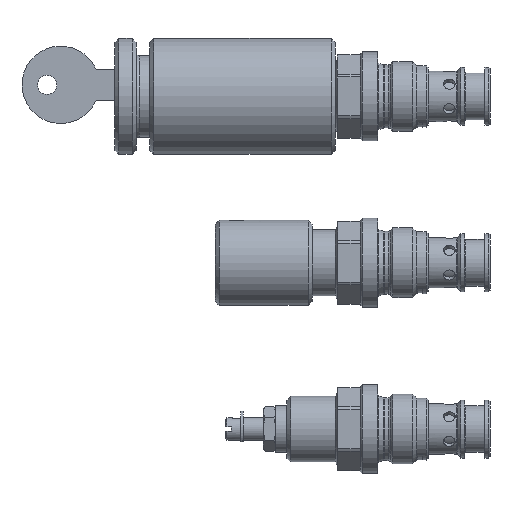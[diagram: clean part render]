
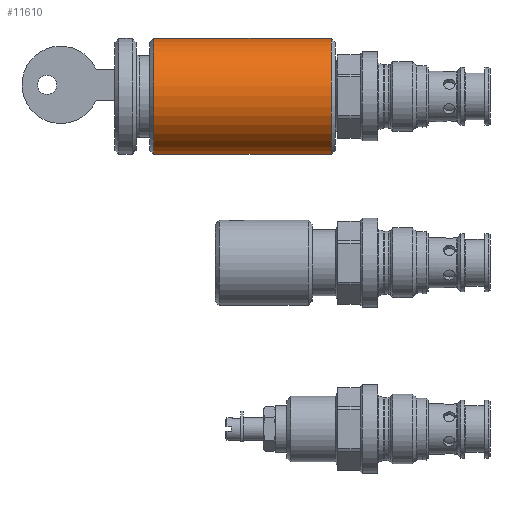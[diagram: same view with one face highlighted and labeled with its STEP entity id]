
A CAD part, front view. The second image highlights one B-rep face of the part: STEP entity #11610.
In plain terms, the highlighted cylindrical face has radius 15 mm (diameter 30 mm), a full revolution.
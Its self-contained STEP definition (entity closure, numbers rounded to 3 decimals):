
#11610=ADVANCED_FACE('', (#11620,#11630), #11640, .T.);
#35650=AXIS2_PLACEMENT_3D('Ax2Pl3d', #35660, #35670, #35680);
#35690=AXIS2_PLACEMENT_3D('Ax2Pl3d', #35700, #35710, #35720);
#35730=AXIS2_PLACEMENT_3D('Ax2Pl3d', #35740, #35750, #35760);
#35660=CARTESIAN_POINT('HicPkt', (-12.,78.001,86.));
#132920=CARTESIAN_POINT('', (-12.,78.001,101.));
#35700=CARTESIAN_POINT('HicPkt', (-58.,78.001,
86.));
#35740=CARTESIAN_POINT('HicPkt', (-58.,78.001,86.));
#132930=CARTESIAN_POINT('', (-58.,78.001,101.));
#135490=CIRCLE('Circle', #35650, 15.);
#135500=CIRCLE('Circle', #35730, 15.);
#11640=CYLINDRICAL_SURFACE('Zyl', #35690, 15.);
#35670=DIRECTION('Axis', (-1.,0.,0.)
);
#35680=DIRECTION('RefDirection', (0.,
0.,-1.));
#35710=DIRECTION('Axis', (1.,0.,0.));
#35720=DIRECTION('RefDirection', (0.,0.,-1.));
#35750=DIRECTION('Axis', (-1.,0.,0.)
);
#35760=DIRECTION('RefDirection', (0.,
0.,-1.));
#165180=EDGE_CURVE('', #165190, #165190, #135490, .T.);
#165200=EDGE_CURVE('', #165210, #165210, #135500, .T.);
#179980=EDGE_LOOP('Edge_loop', (#179990));
#180000=EDGE_LOOP('Edge_loop', (#180010));
#11630=FACE_BOUND('', #180000, .T.);
#11620=FACE_OUTER_BOUND('Face_outer_bound', #179980, .T.);
#179990=ORIENTED_EDGE('', *, *, #165180, .T.);
#180010=ORIENTED_EDGE('', *, *, #165200, .F.);
#165190=VERTEX_POINT('', #132920);
#165210=VERTEX_POINT('', #132930);
